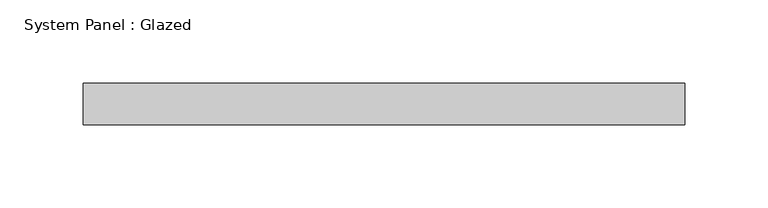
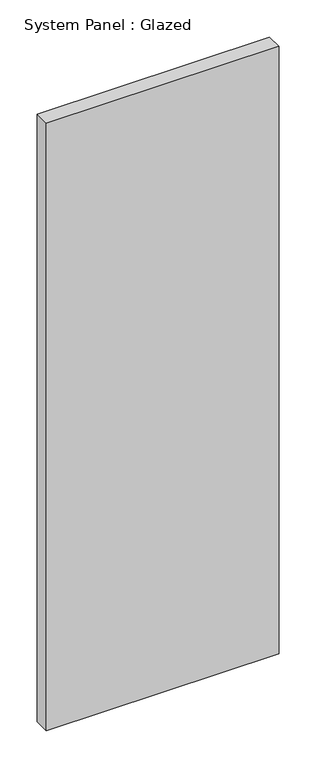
"""IFC4 building model written with IfcOpenShell, lengths in millimetres: plate geometry, System Panel : Glazed."""

from ifc_helpers import new_model, si_unit, origin, origin_with_axes, place, context, project, spatial, polyline, outline, extrude, source, transform, mapped, element, save


def system_panel_glazed_a481d3b4(model_context):
    return source(origin(), model_context, "Body", "SweptSolid", [
        extrude(outline(polyline([(181.1219195, 24.5), (-181.1219195, 24.5), (-181.1219195, 49.5), (181.1219195, 49.5), (181.1219195, 24.5)])), origin_with_axes(), (0.0, 0.0, 1.0), 1000.0),
    ])


if __name__ == "__main__":
    model = new_model("IFC4")
    model_context = context("Model", 3, world=origin())
    ifc_project = project(units=[si_unit("LENGTHUNIT", "METRE", prefix="MILLI")], contexts=[model_context])
    site = spatial("IfcSite", under=ifc_project)
    building = spatial("IfcBuilding", under=site)
    placement = place(None, origin())
    system_panel_glazed_shape = system_panel_glazed_a481d3b4(model_context)
    element("IfcPlate", 1, ObjectType="System Panel : Glazed", at=placement, inside=building, context=model_context, shape_type="MappedRepresentation", body=[
        mapped(system_panel_glazed_shape, transform((0.0, 0.0, 0.0), x_axis=(1.0, 0.0, 0.0), y_axis=(0.0, 1.0, 0.0), z_axis=(0.0, 0.0, 1.0))),
    ])
    save(model, "model.ifc")
